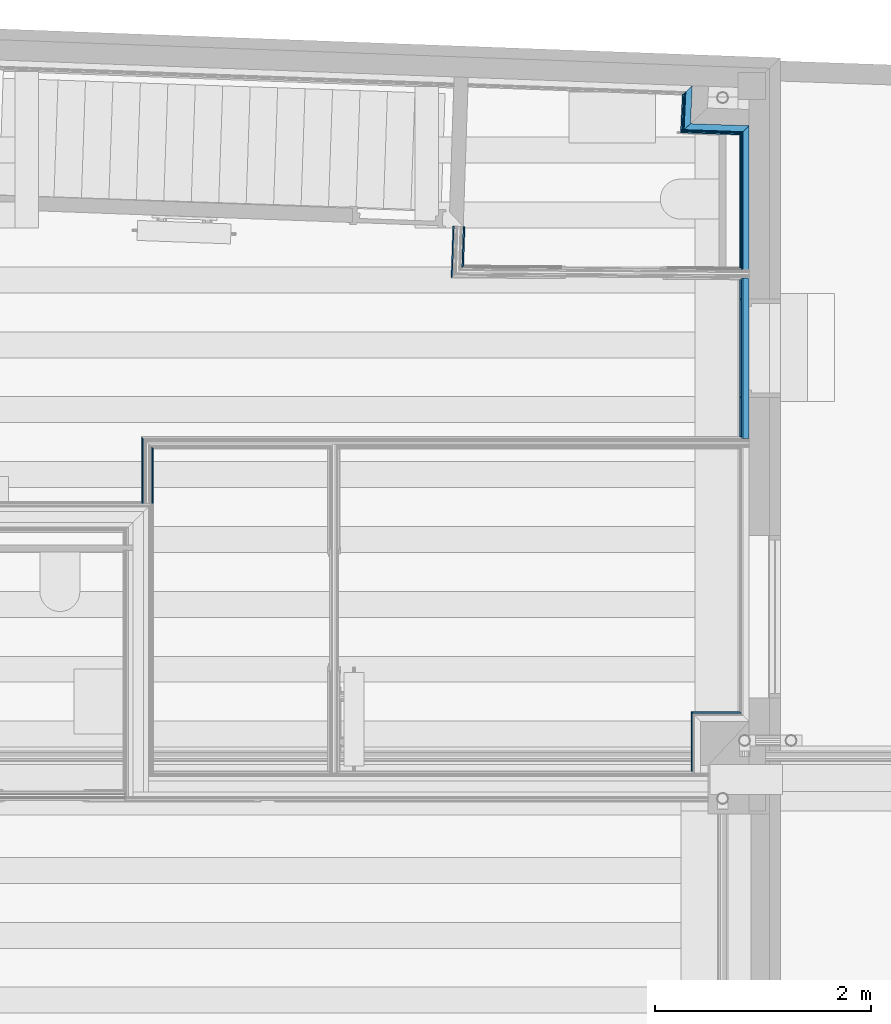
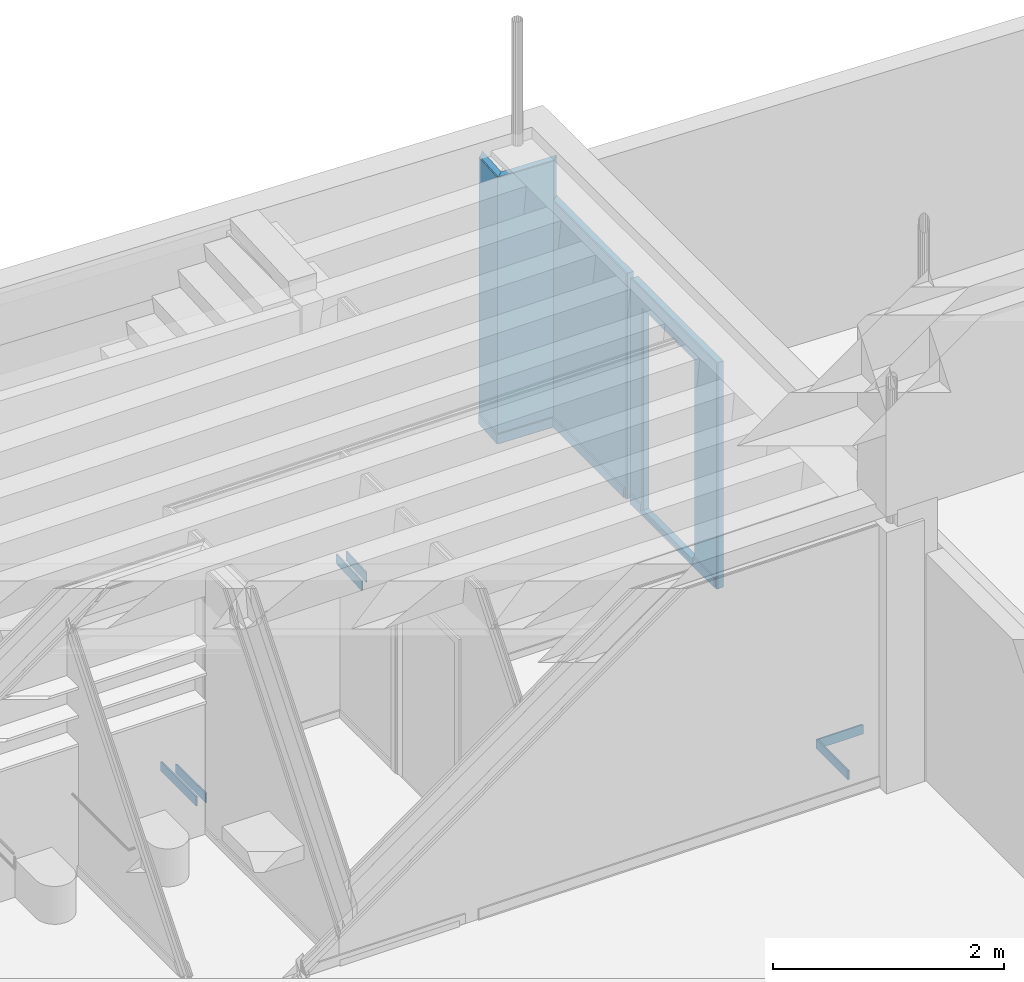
# One storey, part 13 of 106: 18 building element parts, 1 opening, 8 elements without a shape of their own.
"""IFC2X3 building model written with IfcOpenShell, lengths in metres."""

import ifcopenshell
import ifcopenshell.guid

model = None  # the IFC model being written
_history = None  # IfcOwnerHistory: only IFC2X3 demands one
_inside = {}  # id of a spatial element -> (the spatial element, [elements in it])
_under = {}  # id of a project, library or spatial element -> (it, [spatial elements below it])
_declared = {}  # id of a project -> (the project, [libraries it declares])
_typed = {}  # id of a type object -> (the type object, [elements of that type])
_made_of = {}  # id of a material, layer set ... -> (it, [elements and type objects made of it])


def new_model(schema):
    """Start an empty IFC model of exactly this schema.

    Asked for "IFC4X3", IfcOpenShell would pick the latest addendum, in which some entities
    have other attributes; the version numbers below select the first issue.
    IFC2X3 requires an IfcOwnerHistory on every rooted entity: one is made here for all.
    """
    global model, _history
    if schema == "IFC4X3":
        model = ifcopenshell.file(schema_version=(4, 3, 0, 0))
    else:
        model = ifcopenshell.file(schema=schema)
    _inside.clear()
    _under.clear()
    _declared.clear()
    _typed.clear()
    _made_of.clear()
    _history = None
    if model.schema == "IFC2X3":
        org = make("IfcOrganization", Name="unknown")
        user = make(
            "IfcPersonAndOrganization",
            ThePerson=make("IfcPerson", FamilyName="unknown"),
            TheOrganization=org,
        )
        app = make(
            "IfcApplication",
            ApplicationDeveloper=org,
            Version="unknown",
            ApplicationFullName="unknown",
            ApplicationIdentifier="unknown",
        )
        _history = make(
            "IfcOwnerHistory",
            OwningUser=user,
            OwningApplication=app,
            ChangeAction="ADDED",
            CreationDate=0,
        )
    return model


def make(cls, **values):
    """One entity of the class cls with the attributes given. An attribute that is None is left unset."""
    return model.create_entity(
        cls, **{name: value for name, value in values.items() if value is not None}
    )


def entity(cls, *values):
    """Any entity or typed value of the class cls, its attributes in the order of the schema. None: left unset."""
    e = model.create_entity(cls)
    for i, value in enumerate(values):
        if value is not None:
            e[i] = value
    return e


def rooted(cls, **values):
    """An entity with a GlobalId (a new one), such as an element, a storey or a relation."""
    return make(cls, GlobalId=ifcopenshell.guid.new(), OwnerHistory=_history, **values)


def si_unit(unit_type, name, prefix=None):
    """IfcSIUnit, for example si_unit("LENGTHUNIT", "METRE", prefix="MILLI")."""
    return make("IfcSIUnit", UnitType=unit_type, Prefix=prefix, Name=name)


def converted_unit(unit_type, name, factor, base, dimensions=None, offset=None):
    """IfcConversionBasedUnit, such as the inch: factor (a typed value) times the base unit."""
    return make(
        "IfcConversionBasedUnit"
        if offset is None
        else "IfcConversionBasedUnitWithOffset",
        ConversionOffset=offset,
        Dimensions=None
        if dimensions is None
        else entity("IfcDimensionalExponents", *dimensions),
        UnitType=unit_type,
        Name=name,
        ConversionFactor=make(
            "IfcMeasureWithUnit", ValueComponent=factor, UnitComponent=base
        ),
    )


def derived_unit(unit_type, elements):
    """IfcDerivedUnit: a product of units, each with its exponent."""
    return make(
        "IfcDerivedUnit",
        Elements=[
            make("IfcDerivedUnitElement", Unit=unit, Exponent=power)
            for unit, power in elements
        ],
        UnitType=unit_type,
    )


def money_unit(currency):
    """IfcMonetaryUnit."""
    return make("IfcMonetaryUnit", Currency=currency)


def assignment(units):
    """IfcUnitAssignment: the units of a project."""
    return None if units is None else make("IfcUnitAssignment", Units=units)


def point(xyz):
    """IfcCartesianPoint."""
    return None if xyz is None else make("IfcCartesianPoint", Coordinates=xyz)


def direction(xyz):
    """IfcDirection."""
    return None if xyz is None else make("IfcDirection", DirectionRatios=xyz)


def frame(location, z_axis=None, x_axis=None):
    """IfcAxis2Placement3D, a coordinate frame: its origin and axes. An axis left out is left unset."""
    return make(
        "IfcAxis2Placement3D",
        Location=point(location),
        Axis=direction(z_axis),
        RefDirection=direction(x_axis),
    )


def frame_2d(location, x_axis=None):
    """IfcAxis2Placement2D, a coordinate frame in the plane: its origin and x axis."""
    return make(
        "IfcAxis2Placement2D", Location=point(location), RefDirection=direction(x_axis)
    )


def origin_with_axes():
    """The frame at (0, 0, 0) with the z axis (0, 0, 1) and the x axis (1, 0, 0) written out."""
    return frame((0.0, 0.0, 0.0), z_axis=(0.0, 0.0, 1.0), x_axis=(1.0, 0.0, 0.0))


def place(relative_to, where):
    """IfcLocalPlacement: puts the frame where relative to a parent placement (None: the world)."""
    return make(
        "IfcLocalPlacement", PlacementRelTo=relative_to, RelativePlacement=where
    )


def context(
    kind, dimensions, precision=None, world=None, true_north=None, identifier=None
):
    """IfcGeometricRepresentationContext, for example the 3D "Model" context."""
    return make(
        "IfcGeometricRepresentationContext",
        ContextIdentifier=identifier,
        ContextType=kind,
        CoordinateSpaceDimension=dimensions,
        Precision=precision,
        WorldCoordinateSystem=world,
        TrueNorth=true_north,
    )


def subcontext(parent, identifier, kind, view, scale=None):
    """IfcGeometricRepresentationSubContext, for example "Body" below "Model"."""
    return make(
        "IfcGeometricRepresentationSubContext",
        ContextIdentifier=identifier,
        ContextType=kind,
        ParentContext=parent,
        TargetScale=scale,
        TargetView=view,
    )


def project(units=None, contexts=None):
    """IfcProject with its units and contexts."""
    return rooted(
        "IfcProject",
        Name="project",
        RepresentationContexts=contexts,
        UnitsInContext=assignment(units),
    )


def spatial(cls, under=None, at=None, **own):
    """A site, building, storey or space (cls), placed at a placement, below another one or the project."""
    s = rooted(cls, ObjectPlacement=at, **own)
    if under is not None:
        _under.setdefault(under.id(), (under, []))[1].append(s)
    return s


def polyline(points):
    """IfcPolyline through the points."""
    return make("IfcPolyline", Points=[point(p) for p in points])


def profile(cls, at=None, kind="AREA", **sizes):
    """A parametric profile (cls). Its sizes go by their IFC names, for example OverallWidth=200.0."""
    return make(cls, ProfileType=kind, Position=at, **sizes)


def rectangle(**sizes):
    """IfcRectangleProfileDef."""
    return profile("IfcRectangleProfileDef", **sizes)


def outline(outer, holes=None, kind="AREA"):
    """IfcArbitraryClosedProfileDef: a profile drawn as a closed curve; with holes, ...WithVoids."""
    if holes is None:
        return make("IfcArbitraryClosedProfileDef", ProfileType=kind, OuterCurve=outer)
    return make(
        "IfcArbitraryProfileDefWithVoids",
        ProfileType=kind,
        OuterCurve=outer,
        InnerCurves=holes,
    )


def extrude(swept, where, along, depth):
    """IfcExtrudedAreaSolid: the profile swept, set in the frame where, extruded along a direction by depth."""
    return make(
        "IfcExtrudedAreaSolid",
        SweptArea=swept,
        Position=where,
        ExtrudedDirection=direction(along),
        Depth=depth,
    )


def shape(context_of_items, identifier, shape_type, items):
    """IfcShapeRepresentation: the items that make up one representation, for example the "Body"."""
    return make(
        "IfcShapeRepresentation",
        ContextOfItems=context_of_items,
        RepresentationIdentifier=identifier,
        RepresentationType=shape_type,
        Items=items,
    )


def material(Name=None, Category=None):
    """IfcMaterial."""
    return make("IfcMaterial", Name=Name, Category=Category)


def made_of(thing, what):
    """Note that an element or type object is made of a material, layer set ...; save() writes the relation."""
    if what is not None:
        _made_of.setdefault(what.id(), (what, []))[1].append(thing)
    return thing


def type_object(cls, material=None, **own):
    """A type object (cls), such as IfcWallType, which elements share."""
    return made_of(rooted(cls, **own), material)


def element(
    cls,
    number,
    at=None,
    inside=None,
    cuts=None,
    type_object=None,
    material=None,
    context=None,
    identifier="Body",
    shape_type=None,
    held_by="IfcProductDefinitionShape",
    body=None,
    shapes=None,
    **own,
):
    """One element of the class cls, such as IfcWall. Its Tag is "e" and its number.

    at: its placement. inside: the storey or other place that contains it. cuts: it is an
    opening in that element (IfcRelVoidsElement). A single representation is given by context,
    identifier, shape_type and body (its items); several are given by shapes. held_by: the class
    of the entity that holds the representations. save() writes the other relations.
    """
    e = rooted(cls, Tag="e%d" % number, ObjectPlacement=at, **own)
    if body is not None:
        shapes = [shape(context, identifier, shape_type, body)]
    if shapes is not None:
        e.Representation = make(held_by, Representations=shapes)
    if inside is not None:
        _inside.setdefault(inside.id(), (inside, []))[1].append(e)
    if cuts is not None:
        rooted(
            "IfcRelVoidsElement", RelatingBuildingElement=cuts, RelatedOpeningElement=e
        )
    if type_object is not None:
        _typed.setdefault(type_object.id(), (type_object, []))[1].append(e)
    return made_of(e, material)


def aggregate(whole, parts):
    """IfcRelAggregates: a whole, such as a stair, and the parts it consists of."""
    return rooted("IfcRelAggregates", RelatingObject=whole, RelatedObjects=parts)


def save(model, path):
    """Write the relations noted so far, then the file.

    IfcRelAggregates (storeys below a building ...), IfcRelContainedInSpatialStructure (elements
    in a storey), IfcRelDefinesByType, IfcRelAssociatesMaterial and IfcRelDeclares: one each for
    every whole, place, type object, material and project.
    """
    for whole, parts in _under.values():
        aggregate(whole, parts)
    for where, things in _inside.values():
        rooted(
            "IfcRelContainedInSpatialStructure",
            RelatedElements=things,
            RelatingStructure=where,
        )
    for kind, things in _typed.values():
        rooted("IfcRelDefinesByType", RelatedObjects=things, RelatingType=kind)
    for what, things in _made_of.values():
        rooted("IfcRelAssociatesMaterial", RelatedObjects=things, RelatingMaterial=what)
    for by, libraries in _declared.values():
        rooted("IfcRelDeclares", RelatingContext=by, RelatedDefinitions=libraries)
    model.write(path)


model = new_model("IFC2X3")

# Units and contexts
model_context = context("Model", 3, precision=1e-05, world=origin_with_axes(), true_north=direction((0.0, 1.0)))
body_context = subcontext(model_context, "Body", "Model", "MODEL_VIEW", scale=1.0)
ifc_project = project(units=[si_unit("LENGTHUNIT", "METRE"), si_unit("AREAUNIT", "SQUARE_METRE"), si_unit("VOLUMEUNIT", "CUBIC_METRE"), si_unit("ABSORBEDDOSEUNIT", "GRAY"), si_unit("AMOUNTOFSUBSTANCEUNIT", "MOLE"), si_unit("DOSEEQUIVALENTUNIT", "SIEVERT"), si_unit("ELECTRICCAPACITANCEUNIT", "FARAD"), si_unit("ELECTRICCHARGEUNIT", "COULOMB"), si_unit("ELECTRICCONDUCTANCEUNIT", "SIEMENS"), si_unit("ELECTRICCURRENTUNIT", "AMPERE"), si_unit("ELECTRICRESISTANCEUNIT", "OHM"), si_unit("ELECTRICVOLTAGEUNIT", "VOLT"), si_unit("ENERGYUNIT", "JOULE"), si_unit("FORCEUNIT", "NEWTON"), si_unit("FREQUENCYUNIT", "HERTZ"), si_unit("ILLUMINANCEUNIT", "LUX"), si_unit("INDUCTANCEUNIT", "HENRY"), si_unit("LUMINOUSFLUXUNIT", "LUMEN"), si_unit("LUMINOUSINTENSITYUNIT", "CANDELA"), si_unit("MAGNETICFLUXDENSITYUNIT", "TESLA"), si_unit("MAGNETICFLUXUNIT", "WEBER"), si_unit("MASSUNIT", "GRAM"), converted_unit("PLANEANGLEUNIT", "degree", entity("IfcReal", 0.0174532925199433), si_unit("PLANEANGLEUNIT", "RADIAN"), dimensions=[0, 0, 0, 0, 0, 0, 0]), si_unit("POWERUNIT", "WATT"), si_unit("PRESSUREUNIT", "PASCAL"), si_unit("RADIOACTIVITYUNIT", "BECQUEREL"), si_unit("SOLIDANGLEUNIT", "STERADIAN"), si_unit("THERMODYNAMICTEMPERATUREUNIT", "KELVIN"), si_unit("TIMEUNIT", "SECOND"), derived_unit("ACCELERATIONUNIT", [(si_unit("LENGTHUNIT", "METRE"), 1), (si_unit("TIMEUNIT", "SECOND"), -2)]), derived_unit("ANGULARVELOCITYUNIT", [(converted_unit("PLANEANGLEUNIT", "degree", entity("IfcReal", 0.0174532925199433), si_unit("PLANEANGLEUNIT", "RADIAN"), dimensions=[0, 0, 0, 0, 0, 0, 0]), 1), (si_unit("TIMEUNIT", "SECOND"), -1)]), derived_unit("CURVATUREUNIT", [(converted_unit("PLANEANGLEUNIT", "degree", entity("IfcReal", 0.0174532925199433), si_unit("PLANEANGLEUNIT", "RADIAN"), dimensions=[0, 0, 0, 0, 0, 0, 0]), 1), (si_unit("LENGTHUNIT", "METRE"), -1)]), derived_unit("DYNAMICVISCOSITYUNIT", [(si_unit("PRESSUREUNIT", "PASCAL"), 1), (si_unit("TIMEUNIT", "SECOND"), 1)]), derived_unit("HEATFLUXDENSITYUNIT", [(si_unit("POWERUNIT", "WATT"), 1), (si_unit("LENGTHUNIT", "METRE"), -2)]), derived_unit("HEATINGVALUEUNIT", [(si_unit("ENERGYUNIT", "JOULE"), 1), (si_unit("MASSUNIT", "GRAM"), -1)]), derived_unit("INTEGERCOUNTRATEUNIT", [(si_unit("TIMEUNIT", "SECOND"), -1)]), derived_unit("IONCONCENTRATIONUNIT", [(si_unit("MASSUNIT", "GRAM"), 1), (si_unit("VOLUMEUNIT", "CUBIC_METRE"), -1)]), derived_unit("ISOTHERMALMOISTURECAPACITYUNIT", [(si_unit("VOLUMEUNIT", "CUBIC_METRE"), 1), (si_unit("MASSUNIT", "GRAM"), -1)]), derived_unit("KINEMATICVISCOSITYUNIT", [(si_unit("AREAUNIT", "SQUARE_METRE"), 1), (si_unit("TIMEUNIT", "SECOND"), -1)]), derived_unit("LINEARFORCEUNIT", [(si_unit("FORCEUNIT", "NEWTON"), 1), (si_unit("LENGTHUNIT", "METRE"), -1)]), derived_unit("LINEARMOMENTUNIT", [(si_unit("FORCEUNIT", "NEWTON"), 1), (si_unit("LENGTHUNIT", "METRE"), -1)]), derived_unit("LINEARSTIFFNESSUNIT", [(si_unit("FORCEUNIT", "NEWTON"), 1), (si_unit("LENGTHUNIT", "METRE"), -1)]), derived_unit("LINEARVELOCITYUNIT", [(si_unit("LENGTHUNIT", "METRE"), 1), (si_unit("TIMEUNIT", "SECOND"), -1)]), derived_unit("LUMINOUSINTENSITYDISTRIBUTIONUNIT", [(si_unit("LUMINOUSINTENSITYUNIT", "CANDELA"), 1), (si_unit("LUMINOUSFLUXUNIT", "LUMEN"), -1)]), derived_unit("MASSDENSITYUNIT", [(si_unit("MASSUNIT", "GRAM"), 1), (si_unit("VOLUMEUNIT", "CUBIC_METRE"), -1)]), derived_unit("MASSFLOWRATEUNIT", [(si_unit("MASSUNIT", "GRAM"), 1), (si_unit("TIMEUNIT", "SECOND"), -1)]), derived_unit("MASSPERLENGTHUNIT", [(si_unit("MASSUNIT", "GRAM"), 1), (si_unit("LENGTHUNIT", "METRE"), -1)]), derived_unit("MODULUSOFELASTICITYUNIT", [(si_unit("FORCEUNIT", "NEWTON"), 1), (si_unit("AREAUNIT", "SQUARE_METRE"), -1)]), derived_unit("MODULUSOFLINEARSUBGRADEREACTIONUNIT", [(si_unit("FORCEUNIT", "NEWTON"), 1), (si_unit("LENGTHUNIT", "METRE"), -2)]), derived_unit("MODULUSOFROTATIONALSUBGRADEREACTIONUNIT", [(si_unit("FORCEUNIT", "NEWTON"), 1), (si_unit("LENGTHUNIT", "METRE"), 1)]), derived_unit("MODULUSOFSUBGRADEREACTIONUNIT", [(si_unit("FORCEUNIT", "NEWTON"), 1), (si_unit("VOLUMEUNIT", "CUBIC_METRE"), -1)]), derived_unit("MOISTUREDIFFUSIVITYUNIT", [(si_unit("VOLUMEUNIT", "CUBIC_METRE"), 1), (si_unit("TIMEUNIT", "SECOND"), -1)]), derived_unit("MOLECULARWEIGHTUNIT", [(si_unit("MASSUNIT", "GRAM"), 1), (si_unit("AMOUNTOFSUBSTANCEUNIT", "MOLE"), -1)]), derived_unit("PLANARFORCEUNIT", [(si_unit("FORCEUNIT", "NEWTON"), 1), (si_unit("LENGTHUNIT", "METRE"), -2)]), derived_unit("ROTATIONALFREQUENCYUNIT", [(si_unit("TIMEUNIT", "SECOND"), -1)]), derived_unit("ROTATIONALMASSUNIT", [(si_unit("MASSUNIT", "GRAM"), 1), (si_unit("LENGTHUNIT", "METRE"), 2)]), derived_unit("ROTATIONALSTIFFNESSUNIT", [(si_unit("FORCEUNIT", "NEWTON"), 1), (si_unit("LENGTHUNIT", "METRE"), 1), (converted_unit("PLANEANGLEUNIT", "degree", entity("IfcReal", 0.0174532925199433), si_unit("PLANEANGLEUNIT", "RADIAN"), dimensions=[0, 0, 0, 0, 0, 0, 0]), -1)]), derived_unit("SECTIONAREAINTEGRALUNIT", [(si_unit("LENGTHUNIT", "METRE"), 5)]), derived_unit("SECTIONMODULUSUNIT", [(si_unit("LENGTHUNIT", "METRE"), 3)]), derived_unit("SHEARMODULUSUNIT", [(si_unit("FORCEUNIT", "NEWTON"), 1), (si_unit("AREAUNIT", "SQUARE_METRE"), -1)]), derived_unit("SOUNDPOWERUNIT", [(si_unit("ENERGYUNIT", "JOULE"), 1), (si_unit("TIMEUNIT", "SECOND"), -1)]), derived_unit("SPECIFICHEATCAPACITYUNIT", [(si_unit("FORCEUNIT", "NEWTON"), 1), (si_unit("MASSUNIT", "GRAM"), -1), (si_unit("THERMODYNAMICTEMPERATUREUNIT", "KELVIN"), -1)]), derived_unit("TEMPERATUREGRADIENTUNIT", [(si_unit("THERMODYNAMICTEMPERATUREUNIT", "KELVIN"), 1), (si_unit("LENGTHUNIT", "METRE"), -1)]), derived_unit("THERMALADMITTANCEUNIT", [(si_unit("POWERUNIT", "WATT"), 1), (si_unit("AREAUNIT", "SQUARE_METRE"), -1), (si_unit("THERMODYNAMICTEMPERATUREUNIT", "KELVIN"), -1)]), derived_unit("THERMALCONDUCTANCEUNIT", [(si_unit("POWERUNIT", "WATT"), 1), (si_unit("LENGTHUNIT", "METRE"), -1), (si_unit("THERMODYNAMICTEMPERATUREUNIT", "KELVIN"), -1)]), derived_unit("THERMALEXPANSIONCOEFFICIENTUNIT", [(si_unit("THERMODYNAMICTEMPERATUREUNIT", "KELVIN"), -1)]), derived_unit("THERMALRESISTANCEUNIT", [(si_unit("AREAUNIT", "SQUARE_METRE"), 1), (si_unit("POWERUNIT", "WATT"), -1)]), derived_unit("THERMALTRANSMITTANCEUNIT", [(si_unit("POWERUNIT", "WATT"), 1), (si_unit("AREAUNIT", "SQUARE_METRE"), -1), (si_unit("THERMODYNAMICTEMPERATUREUNIT", "KELVIN"), -1)]), derived_unit("TORQUEUNIT", [(si_unit("FORCEUNIT", "NEWTON"), 1), (si_unit("LENGTHUNIT", "METRE"), 1)]), derived_unit("VAPORPERMEABILITYUNIT", [(si_unit("MASSUNIT", "GRAM"), 1), (si_unit("TIMEUNIT", "SECOND"), -1)]), derived_unit("VOLUMETRICFLOWRATEUNIT", [(si_unit("VOLUMEUNIT", "CUBIC_METRE"), 1), (si_unit("TIMEUNIT", "SECOND"), -1)]), derived_unit("WARPINGCONSTANTUNIT", [(si_unit("LENGTHUNIT", "METRE"), 6)]), derived_unit("WARPINGMOMENTUNIT", [(si_unit("FORCEUNIT", "NEWTON"), 1), (si_unit("LENGTHUNIT", "METRE"), 2)]), money_unit("GBP")], contexts=[model_context])

# Site, building, storey
site_placement = place(None, origin_with_axes())
site = spatial("IfcSite", under=ifc_project, at=site_placement, Name="Site", CompositionType="ELEMENT")
building_placement = place(site_placement, origin_with_axes())
building = spatial("IfcBuilding", under=site, at=building_placement, Name="Building01", CompositionType="ELEMENT")
storey_placement = place(building_placement, origin_with_axes())
storey = spatial("IfcBuildingStorey", under=building, at=storey_placement, Name="GF", CompositionType="ELEMENT", Elevation=0.0)

# Wall, building element parts
wall_type_1 = type_object("IfcWallType", Name="SHE_A-Walls_Type05b_Partition_80mm", PredefinedType="NOTDEFINED")
wall_1_placement = place(storey_placement, frame((3.603525, 17.143647, 0.148), z_axis=(0.0, 0.0, 1.0), x_axis=(0.0, 1.0, 0.0)))
wall_1 = element("IfcWall", 1, at=wall_1_placement, inside=storey, type_object=wall_type_1, Name="5B", ObjectType="SHE_A-Walls_Type05b_Partition_80mm")
ifc_material_1 = material(Name="A_BSUK_Walls_Timber")
placement_1 = place(wall_1_placement, origin_with_axes())
building_element_part_1 = element("IfcBuildingElementPart", 2, at=placement_1, material=ifc_material_1, Name="1", context=body_context, shape_type="SweptSolid", body=[
    extrude(outline(polyline([(0.519924, -0.027), (0.0, -0.027), (0.0, -0.042), (0.504924, -0.042), (0.519924, -0.027)])), frame((0.0, 0.0, 0.015), z_axis=(0.0, 0.0, 1.0), x_axis=(1.0, 0.0, 0.0)), (0.0, 0.0, 1.0), 0.1),
])
building_element_part_2 = element("IfcBuildingElementPart", 3, at=placement_1, material=ifc_material_1, Name="7", context=body_context, shape_type="SweptSolid", body=[
    extrude(outline(polyline([(0.614924, 0.068), (0.0, 0.068), (0.0, 0.053), (0.599924, 0.053), (0.614924, 0.068)])), frame((0.0, 0.0, 0.015), z_axis=(0.0, 0.0, 1.0), x_axis=(1.0, 0.0, 0.0)), (0.0, 0.0, 1.0), 0.1),
])
aggregate(wall_1, [building_element_part_1, building_element_part_2])

wall_2_placement = place(storey_placement, frame((6.468779, 19.273593, 0.148), z_axis=(0.0, 0.0, 1.0), x_axis=(0.03365301, 0.99943358, 0.0)))
wall_2 = element("IfcWall", 4, at=wall_2_placement, inside=storey, type_object=wall_type_1, Name="5B", ObjectType="SHE_A-Walls_Type05b_Partition_80mm")
placement_2 = place(wall_2_placement, origin_with_axes())
building_element_part_3 = element("IfcBuildingElementPart", 5, at=placement_2, material=ifc_material_1, Name="1", context=body_context, shape_type="SweptSolid", body=[
    extrude(outline(polyline([(0.430401, -0.027), (0.052747, -0.027), (0.067359, -0.042), (0.430351, -0.042), (0.430401, -0.027)])), frame((0.0, 0.0, 0.015), z_axis=(0.0, 0.0, 1.0), x_axis=(1.0, 0.0, 0.0)), (0.0, 0.0, 1.0), 0.1),
])
building_element_part_4 = element("IfcBuildingElementPart", 6, at=placement_2, material=ifc_material_1, Name="7", context=body_context, shape_type="SweptSolid", body=[
    extrude(outline(polyline([(0.430716, 0.068), (-0.044849, 0.068), (-0.029439, 0.053), (0.430666, 0.053), (0.430716, 0.068)])), frame((0.0, 0.0, 0.015), z_axis=(0.0, 0.0, 1.0), x_axis=(1.0, 0.0, 0.0)), (0.0, 0.0, 1.0), 0.1),
])
aggregate(wall_2, [building_element_part_3, building_element_part_4])

wall_type_2 = type_object("IfcWallType", Name="SHE_A-Walls_Type06c_ExternalWallInsulation_60mm", PredefinedType="NOTDEFINED")
wall_3_placement = place(storey_placement, frame((9.154265, 19.307574, 0.148), z_axis=(0.0, 0.0, 1.0), x_axis=(0.0, 1.0, 0.0)))
wall_3 = element("IfcWall", 7, at=wall_3_placement, inside=storey, type_object=wall_type_2, Name="6C", ObjectType="SHE_A-Walls_Type06c_ExternalWallInsulation_60mm")
ifc_material_2 = material(Name="A_BSUK_Insulation")
placement_3 = place(wall_3_placement, origin_with_axes())
building_element_part_5 = element("IfcBuildingElementPart", 8, at=placement_3, material=ifc_material_2, Name="1", context=body_context, shape_type="SweptSolid", body=[
    extrude(outline(polyline([(1.26997, 0.06), (0.0, 0.06), (0.0, 0.0), (1.327893, 0.0), (1.26997, 0.06)])), origin_with_axes(), (0.0, 0.0, 1.0), 2.387),
])
ifc_material_3 = material(Name="A_BSUK_WallInternal_Finishes_Plasterboard")
building_element_part_6 = element("IfcBuildingElementPart", 9, at=placement_3, material=ifc_material_3, Name="2", context=body_context, shape_type="SweptSolid", body=[
    extrude(outline(polyline([(1.258385, 0.072), (0.0, 0.072), (0.0, 0.059), (1.270935, 0.059), (1.258385, 0.072)])), origin_with_axes(), (0.0, 0.0, 1.0), 2.387),
])
building_element_part_7 = element("IfcBuildingElementPart", 10, at=placement_3, material=ifc_material_1, Name="3", context=body_context, shape_type="SweptSolid", body=[
    extrude(outline(polyline([(1.243904, 0.087), (0.015584, 0.087), (0.015483, 0.072), (1.258385, 0.072), (1.243904, 0.087)])), frame((0.0, 0.0, 0.015), z_axis=(0.0, 0.0, 1.0), x_axis=(1.0, 0.0, 0.0)), (0.0, 0.0, 1.0), 0.1),
])
aggregate(wall_3, [building_element_part_5, building_element_part_6, building_element_part_7])

wall_4_placement = place(storey_placement, frame((9.154265, 20.635466, 0.148), z_axis=(0.0, 0.0, 1.0), x_axis=(-0.99937968, 0.03521735, 0.0)))
wall_4 = element("IfcWall", 11, at=wall_4_placement, inside=storey, type_object=wall_type_2, Name="6C", ObjectType="SHE_A-Walls_Type06c_ExternalWallInsulation_60mm")
placement_4 = place(wall_4_placement, origin_with_axes())
building_element_part_8 = element("IfcBuildingElementPart", 12, at=placement_4, material=ifc_material_2, Name="1", context=body_context, shape_type="SweptSolid", body=[
    extrude(outline(polyline([(0.60338, 0.06), (0.057923, 0.06), (0.0, 0.0), (0.542719, 0.0), (0.60338, 0.06)])), origin_with_axes(), (0.0, 0.0, 1.0), 2.812),
])
building_element_part_9 = element("IfcBuildingElementPart", 13, at=placement_4, material=ifc_material_3, Name="2", context=body_context, shape_type="SweptSolid", body=[
    extrude(outline(polyline([(0.615512, 0.072), (0.069507, 0.072), (0.056958, 0.059), (0.602369, 0.059), (0.615512, 0.072)])), origin_with_axes(), (0.0, 0.0, 1.0), 2.812),
])
building_element_part_10 = element("IfcBuildingElementPart", 14, at=placement_4, material=ifc_material_1, Name="3", context=body_context, shape_type="SweptSolid", body=[
    extrude(outline(polyline([(0.630677, 0.087), (0.083988, 0.087), (0.069507, 0.072), (0.615512, 0.072), (0.630677, 0.087)])), frame((0.0, 0.0, 0.015), z_axis=(0.0, 0.0, 1.0), x_axis=(1.0, 0.0, 0.0)), (0.0, 0.0, 1.0), 0.1),
])
aggregate(wall_4, [building_element_part_8, building_element_part_9, building_element_part_10])

wall_5_placement = place(storey_placement, frame((8.611883, 20.65458, 0.148), z_axis=(0.0, 0.0, 1.0), x_axis=(0.04616624, 0.99893377, 0.0)))
wall_5 = element("IfcWall", 15, at=wall_5_placement, inside=storey, type_object=wall_type_2, Name="6C", ObjectType="SHE_A-Walls_Type06c_ExternalWallInsulation_60mm")
placement_5 = place(wall_5_placement, origin_with_axes())
building_element_part_11 = element("IfcBuildingElementPart", 16, at=placement_5, material=ifc_material_2, Name="1", context=body_context, shape_type="SweptSolid", body=[
    extrude(outline(polyline([(0.290707, 0.06), (-0.060661, 0.06), (0.0, 0.0), (0.351255, 0.0), (0.290707, 0.06)])), origin_with_axes(), (0.0, 0.0, 1.0), 2.812),
])
building_element_part_12 = element("IfcBuildingElementPart", 17, at=placement_5, material=ifc_material_3, Name="2", context=body_context, shape_type="SweptSolid", body=[
    extrude(outline(polyline([(0.278597, 0.072), (-0.072793, 0.072), (-0.05965, 0.059), (0.291716, 0.059), (0.278597, 0.072)])), origin_with_axes(), (0.0, 0.0, 1.0), 2.812),
])
building_element_part_13 = element("IfcBuildingElementPart", 18, at=placement_5, material=ifc_material_1, Name="3", context=body_context, shape_type="SweptSolid", body=[
    extrude(outline(polyline([(0.26346, 0.087), (-0.087959, 0.087), (-0.072793, 0.072), (0.278597, 0.072), (0.26346, 0.087)])), frame((0.0, 0.0, 0.015), z_axis=(0.0, 0.0, 1.0), x_axis=(1.0, 0.0, 0.0)), (0.0, 0.0, 1.0), 0.1),
])
aggregate(wall_5, [building_element_part_11, building_element_part_12, building_element_part_13])

# Wall, building element part
wall_6_placement = place(storey_placement, frame((8.705291, 14.65, 0.148), z_axis=(0.0, 0.0, 1.0), x_axis=(0.0, 1.0, 0.0)))
wall_6 = element("IfcWall", 19, at=wall_6_placement, inside=storey, type_object=wall_type_2, Name="6C", ObjectType="SHE_A-Walls_Type06c_ExternalWallInsulation_60mm")
building_element_part_14_placement = place(wall_6_placement, origin_with_axes())
building_element_part_14 = element("IfcBuildingElementPart", 20, at=building_element_part_14_placement, material=ifc_material_1, Name="3", context=body_context, shape_type="SweptSolid", body=[
    extrude(outline(polyline([(0.564892, 0.087), (0.015, 0.087), (0.015, 0.072), (0.549892, 0.072), (0.564892, 0.087)])), frame((0.0, 0.0, 0.015), z_axis=(0.0, 0.0, 1.0), x_axis=(1.0, 0.0, 0.0)), (0.0, 0.0, 1.0), 0.1),
])
aggregate(wall_6, [building_element_part_14])

wall_7_placement = place(storey_placement, frame((8.705291, 15.127892, 0.148), z_axis=(0.0, 0.0, 1.0), x_axis=(1.0, 0.0, 0.0)))
wall_7 = element("IfcWall", 21, at=wall_7_placement, inside=storey, type_object=wall_type_2, Name="6C", ObjectType="SHE_A-Walls_Type06c_ExternalWallInsulation_60mm")
building_element_part_15_placement = place(wall_7_placement, origin_with_axes())
building_element_part_15 = element("IfcBuildingElementPart", 22, at=building_element_part_15_placement, material=ifc_material_1, Name="3", context=body_context, shape_type="SweptSolid", body=[
    extrude(outline(polyline([(0.361974, 0.087), (-0.087, 0.087), (-0.072, 0.072), (0.376974, 0.072), (0.361974, 0.087)])), frame((0.0, 0.0, 0.015), z_axis=(0.0, 0.0, 1.0), x_axis=(1.0, 0.0, 0.0)), (0.0, 0.0, 1.0), 0.1),
])
aggregate(wall_7, [building_element_part_15])

# Wall, opening, building element parts
wall_8_placement = place(storey_placement, frame((9.154265, 17.743571, 0.148), z_axis=(0.0, 0.0, 1.0), x_axis=(0.0, 1.0, 0.0)))
wall_8 = element("IfcWall", 23, at=wall_8_placement, inside=storey, type_object=wall_type_2, Name="6C", ObjectType="SHE_A-Walls_Type06c_ExternalWallInsulation_60mm")
opening_placement = place(wall_8_placement, frame((0.380537, 0.0, 0.05), z_axis=(0.0, 0.0, 1.0), x_axis=(1.0, 0.0, 0.0)))
element("IfcOpeningElement", 24, at=opening_placement, cuts=wall_8, Name="Opening", ObjectType="Opening", context=body_context, shape_type="SweptSolid", body=[
    extrude(rectangle(XDim=2.142, YDim=0.909, at=frame_2d((-0.4545, 1.071), x_axis=(0.0, -1.0))), frame((0.0, 0.0, 0.0), z_axis=(0.0, 1.0, 0.0), x_axis=(-1.0, 0.0, 0.0)), (0.0, 0.0, 1.0), 0.087),
])
placement_6 = place(wall_8_placement, origin_with_axes())
building_element_part_16 = element("IfcBuildingElementPart", 25, at=placement_6, material=ifc_material_2, Name="1", context=body_context, shape_type="SweptSolid", body=[
    extrude(rectangle(XDim=1.484001, YDim=0.06, at=frame_2d((0.742, 0.03), x_axis=(1.0, 0.0))), origin_with_axes(), (0.0, 0.0, 1.0), 2.387),
])
building_element_part_17 = element("IfcBuildingElementPart", 26, at=placement_6, material=ifc_material_3, Name="2", context=body_context, shape_type="SweptSolid", body=[
    extrude(rectangle(XDim=1.484001, YDim=0.013, at=frame_2d((0.742, 0.0655), x_axis=(1.0, 0.0))), origin_with_axes(), (0.0, 0.0, 1.0), 2.387),
])
building_element_part_18 = element("IfcBuildingElementPart", 27, at=placement_6, material=ifc_material_1, Name="3", context=body_context, shape_type="SweptSolid", body=[
    extrude(outline(polyline([(1.469584, 0.087), (0.015, 0.087), (0.015, 0.072), (1.469484, 0.072), (1.469584, 0.087)])), frame((0.0, 0.0, 0.015), z_axis=(0.0, 0.0, 1.0), x_axis=(1.0, 0.0, 0.0)), (0.0, 0.0, 1.0), 0.1),
])
aggregate(wall_8, [building_element_part_16, building_element_part_17, building_element_part_18])

save(model, "model.ifc")
